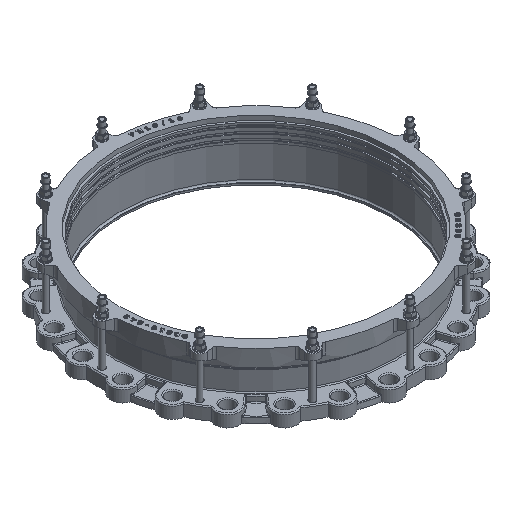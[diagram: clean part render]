
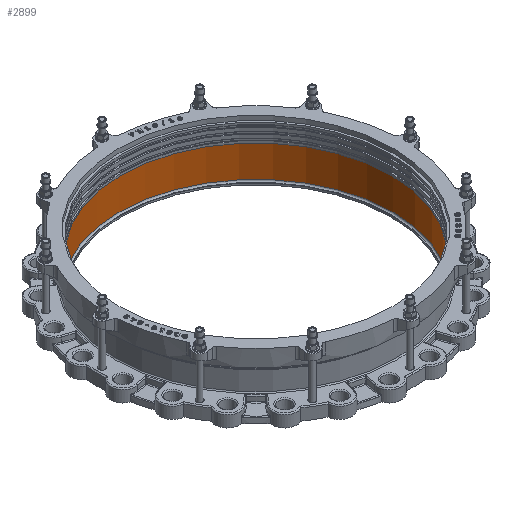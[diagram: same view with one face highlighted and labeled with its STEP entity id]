
A CAD part, isometric view. The second image highlights one B-rep face of the part: STEP entity #2899.
In plain terms, the highlighted cylindrical face has radius 421 mm (diameter 842 mm), a full revolution.
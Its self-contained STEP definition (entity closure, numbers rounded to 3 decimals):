
#2899=ADVANCED_FACE('',(#21188,#21190),#21192,.F.);
#21188=FACE_OUTER_BOUND('',#21189,.T.);
#21189=EDGE_LOOP('',(#29809));
#21190=FACE_OUTER_BOUND('',#21191,.T.);
#21191=EDGE_LOOP('',(#29810));
#21192=CYLINDRICAL_SURFACE('',#21193,421.);
#21193=AXIS2_PLACEMENT_3D('',#21194,#21195,#21196);
#21194=CARTESIAN_POINT('',(0.,0.,5.));
#21195=DIRECTION('',(0.,0.,1.));
#21196=DIRECTION('',(-1.,0.,0.));
#29809=ORIENTED_EDGE('',*,*,#36461,.F.);
#29810=ORIENTED_EDGE('',*,*,#36460,.T.);
#36460=EDGE_CURVE('',#41313,#41313,#41314,.F.);
#36461=EDGE_CURVE('',#41315,#41315,#41316,.T.);
#41313=VERTEX_POINT('',#61296);
#41314=CIRCLE('',#61297,421.);
#41315=VERTEX_POINT('',#61301);
#41316=CIRCLE('',#61302,421.);
#61296=CARTESIAN_POINT('',(0.,421.,9.5));
#61297=AXIS2_PLACEMENT_3D('',#61298,#61299,#61300);
#61298=CARTESIAN_POINT('',(0.,0.,9.5));
#61299=DIRECTION('',(0.,0.,1.));
#61300=DIRECTION('',(0.,1.,0.));
#61301=CARTESIAN_POINT('',(0.,421.,107.75));
#61302=AXIS2_PLACEMENT_3D('',#61303,#61304,#61305);
#61303=CARTESIAN_POINT('',(0.,0.,107.75));
#61304=DIRECTION('',(0.,0.,-1.));
#61305=DIRECTION('',(0.,1.,0.));
